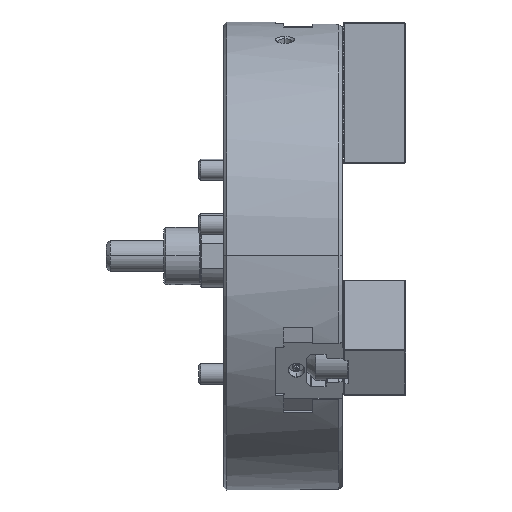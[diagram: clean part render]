
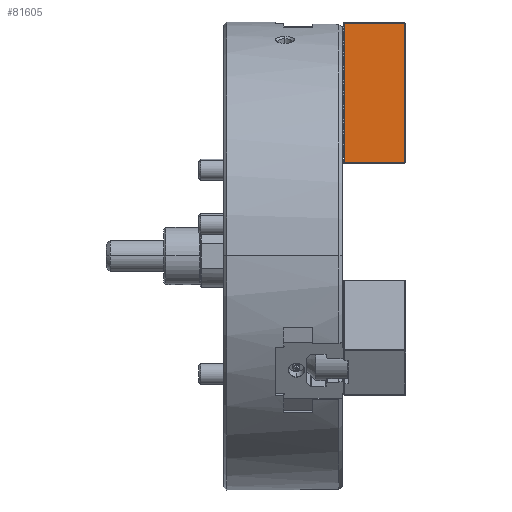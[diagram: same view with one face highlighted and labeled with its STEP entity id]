
A CAD part, top view. The second image highlights one B-rep face of the part: STEP entity #81605.
In plain terms, the highlighted planar face has unit normal (0, 0, 1).
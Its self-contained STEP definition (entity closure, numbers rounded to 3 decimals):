
#6988 = CARTESIAN_POINT ( 'NONE',  ( 60., 0.6, 25. ) ) ;
#20012 = EDGE_CURVE ( 'NONE', #72735, #35237, #126985, .T. ) ;
#27460 = EDGE_CURVE ( 'NONE', #72735, #169001, #135500, .T. ) ;
#29233 = CARTESIAN_POINT ( 'NONE',  ( 1.4, 0.6, 25. ) ) ;
#30101 = LINE ( 'NONE', #200329, #166538 ) ;
#31290 = DIRECTION ( 'NONE',  ( -1., 0., 0. ) ) ;
#32594 = VERTEX_POINT ( 'NONE', #53034 ) ;
#35237 = VERTEX_POINT ( 'NONE', #29233 ) ;
#37991 = VECTOR ( 'NONE', #185841, 1000. ) ;
#46561 = CARTESIAN_POINT ( 'NONE',  ( 60., 0.6, 25. ) ) ;
#46794 = ORIENTED_EDGE ( 'NONE', *, *, #194377, .F. ) ;
#53034 = CARTESIAN_POINT ( 'NONE',  ( 1.4, 134.4, 25. ) ) ;
#69083 = ORIENTED_EDGE ( 'NONE', *, *, #20012, .F. ) ;
#70171 = DIRECTION ( 'NONE',  ( 0., 1., 0. ) ) ;
#72359 = DIRECTION ( 'NONE',  ( 0., 1., 0. ) ) ;
#72735 = VERTEX_POINT ( 'NONE', #144649 ) ;
#81605 = ADVANCED_FACE ( 'NONE', ( #191529 ), #194557, .F. ) ;
#101196 = EDGE_LOOP ( 'NONE', ( #69083, #144490, #157056, #46794 ) ) ;
#113677 = VECTOR ( 'NONE', #72359, 1000. ) ;
#114035 = DIRECTION ( 'NONE',  ( 0., 0., -1. ) ) ;
#115542 = EDGE_CURVE ( 'NONE', #169001, #32594, #201124, .T. ) ;
#118915 = CARTESIAN_POINT ( 'NONE',  ( 59.4, 134.4, 25. ) ) ;
#126985 = LINE ( 'NONE', #46561, #198268 ) ;
#132499 = CARTESIAN_POINT ( 'NONE',  ( 59.4, 134.4, 25. ) ) ;
#135500 = LINE ( 'NONE', #132499, #113677 ) ;
#140074 = DIRECTION ( 'NONE',  ( 0., 1., 0. ) ) ;
#140417 = AXIS2_PLACEMENT_3D ( 'NONE', #6988, #114035, #70171 ) ;
#144490 = ORIENTED_EDGE ( 'NONE', *, *, #27460, .T. ) ;
#144649 = CARTESIAN_POINT ( 'NONE',  ( 59.4, 0.6, 25. ) ) ;
#153209 = CARTESIAN_POINT ( 'NONE',  ( 60., 134.4, 25. ) ) ;
#157056 = ORIENTED_EDGE ( 'NONE', *, *, #115542, .T. ) ;
#166538 = VECTOR ( 'NONE', #140074, 1000. ) ;
#169001 = VERTEX_POINT ( 'NONE', #118915 ) ;
#185841 = DIRECTION ( 'NONE',  ( -1., 0., 0. ) ) ;
#191529 = FACE_OUTER_BOUND ( 'NONE', #101196, .T. ) ;
#194377 = EDGE_CURVE ( 'NONE', #35237, #32594, #30101, .T. ) ;
#194557 = PLANE ( 'NONE',  #140417 ) ;
#198268 = VECTOR ( 'NONE', #31290, 1000. ) ;
#200329 = CARTESIAN_POINT ( 'NONE',  ( 1.4, 0., 25. ) ) ;
#201124 = LINE ( 'NONE', #153209, #37991 ) ;
